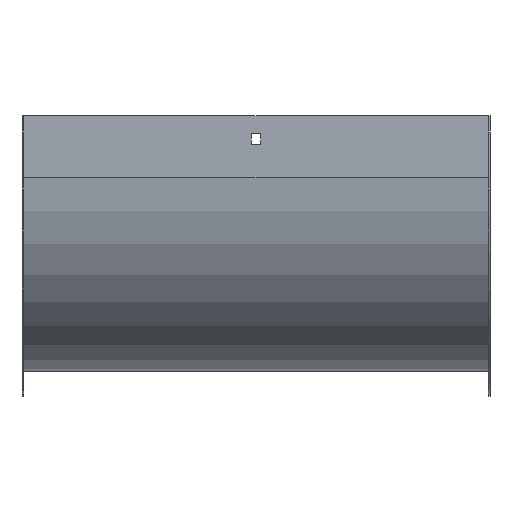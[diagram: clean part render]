
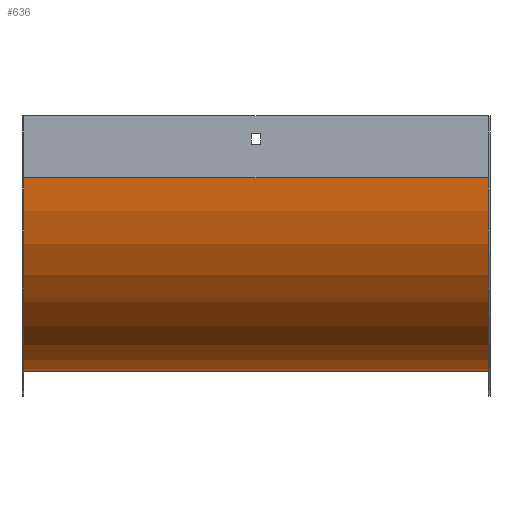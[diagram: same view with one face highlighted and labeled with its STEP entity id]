
A CAD part, front view. The second image highlights one B-rep face of the part: STEP entity #636.
In plain terms, the highlighted cylindrical face has radius 125 mm (diameter 250 mm), a partial arc.
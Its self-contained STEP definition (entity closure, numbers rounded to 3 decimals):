
#25 = VERTEX_POINT ( 'NONE', #458 ) ;
#44 = VECTOR ( 'NONE', #254, 1000. ) ;
#48 = ORIENTED_EDGE ( 'NONE', *, *, #134, .T. ) ;
#50 = FACE_OUTER_BOUND ( 'NONE', #674, .T. ) ;
#95 = CARTESIAN_POINT ( 'NONE',  ( 151., -1., -40. ) ) ;
#121 = DIRECTION ( 'NONE',  ( 0., 0., -1. ) ) ;
#134 = EDGE_CURVE ( 'NONE', #822, #25, #689, .T. ) ;
#151 = DIRECTION ( 'NONE',  ( -1., 0., 0. ) ) ;
#221 = ORIENTED_EDGE ( 'NONE', *, *, #622, .F. ) ;
#226 = AXIS2_PLACEMENT_3D ( 'NONE', #498, #151, #832 ) ;
#232 = CARTESIAN_POINT ( 'NONE',  ( 150., 124., -165. ) ) ;
#252 = VERTEX_POINT ( 'NONE', #712 ) ;
#254 = DIRECTION ( 'NONE',  ( -1., 0., 0. ) ) ;
#268 = ORIENTED_EDGE ( 'NONE', *, *, #272, .F. ) ;
#272 = EDGE_CURVE ( 'NONE', #713, #252, #788, .T. ) ;
#294 = LINE ( 'NONE', #95, #410 ) ;
#334 = AXIS2_PLACEMENT_3D ( 'NONE', #495, #790, #121 ) ;
#374 = LINE ( 'NONE', #647, #44 ) ;
#410 = VECTOR ( 'NONE', #435, 1000. ) ;
#435 = DIRECTION ( 'NONE',  ( -1., 0., 0. ) ) ;
#458 = CARTESIAN_POINT ( 'NONE',  ( 150., -1., -40. ) ) ;
#474 = EDGE_CURVE ( 'NONE', #25, #252, #294, .T. ) ;
#495 = CARTESIAN_POINT ( 'NONE',  ( -150., 124., -40. ) ) ;
#498 = CARTESIAN_POINT ( 'NONE',  ( 150., 124., -40. ) ) ;
#512 = ORIENTED_EDGE ( 'NONE', *, *, #474, .T. ) ;
#522 = DIRECTION ( 'NONE',  ( -1., 0., 0. ) ) ;
#592 = CARTESIAN_POINT ( 'NONE',  ( 151., 124., -40. ) ) ;
#622 = EDGE_CURVE ( 'NONE', #822, #713, #374, .T. ) ;
#636 = ADVANCED_FACE ( 'NONE', ( #50 ), #845, .T. ) ;
#647 = CARTESIAN_POINT ( 'NONE',  ( 151., 124., -165. ) ) ;
#674 = EDGE_LOOP ( 'NONE', ( #268, #221, #48, #512 ) ) ;
#683 = AXIS2_PLACEMENT_3D ( 'NONE', #592, #522, #720 ) ;
#689 = CIRCLE ( 'NONE', #226, 125. ) ;
#712 = CARTESIAN_POINT ( 'NONE',  ( -150., -1., -40. ) ) ;
#713 = VERTEX_POINT ( 'NONE', #804 ) ;
#720 = DIRECTION ( 'NONE',  ( 0., 0., 1. ) ) ;
#788 = CIRCLE ( 'NONE', #334, 125. ) ;
#790 = DIRECTION ( 'NONE',  ( -1., 0., 0. ) ) ;
#804 = CARTESIAN_POINT ( 'NONE',  ( -150., 124., -165. ) ) ;
#822 = VERTEX_POINT ( 'NONE', #232 ) ;
#832 = DIRECTION ( 'NONE',  ( 0., 0., -1. ) ) ;
#845 = CYLINDRICAL_SURFACE ( 'NONE', #683, 125. ) ;
